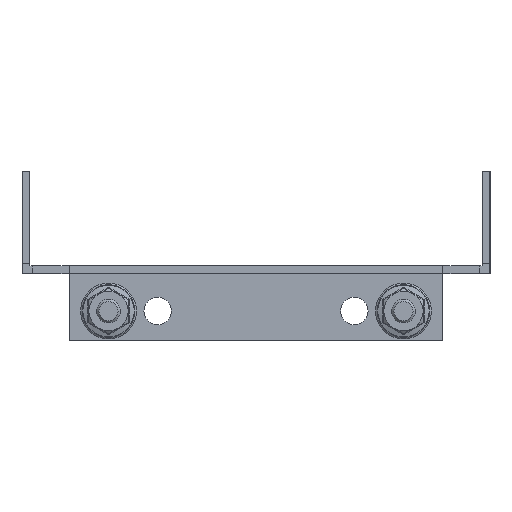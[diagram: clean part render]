
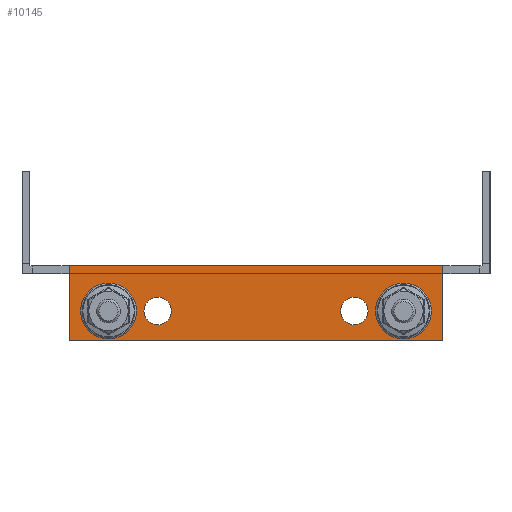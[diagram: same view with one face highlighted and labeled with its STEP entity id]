
A CAD part, left-side view. The second image highlights one B-rep face of the part: STEP entity #10145.
In plain terms, the highlighted planar face has unit normal (-1, 0, 0).
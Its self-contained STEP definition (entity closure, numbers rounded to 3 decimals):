
#1772 = VERTEX_POINT('',#1773);
#1773 = CARTESIAN_POINT('',(-250.,47.5,2.));
#1779 = EDGE_CURVE('',#1780,#1772,#1782,.T.);
#1780 = VERTEX_POINT('',#1781);
#1781 = CARTESIAN_POINT('',(-250.,-47.5,2.));
#1782 = LINE('',#1783,#1784);
#1783 = CARTESIAN_POINT('',(-250.,-57.5,2.));
#1784 = VECTOR('',#1785,1.);
#1785 = DIRECTION('',(-0.,1.,-0.));
#10024 = VERTEX_POINT('',#10025);
#10025 = CARTESIAN_POINT('',(-250.,-47.5,-0.6));
#10040 = EDGE_CURVE('',#10024,#1780,#10041,.T.);
#10041 = LINE('',#10042,#10043);
#10042 = CARTESIAN_POINT('',(-250.,-47.5,-0.6));
#10043 = VECTOR('',#10044,1.);
#10044 = DIRECTION('',(0.,-0.,1.));
#10064 = VERTEX_POINT('',#10065);
#10065 = CARTESIAN_POINT('',(-250.,47.5,-0.6));
#10071 = EDGE_CURVE('',#10064,#1772,#10072,.T.);
#10072 = LINE('',#10073,#10074);
#10073 = CARTESIAN_POINT('',(-250.,47.5,0.));
#10074 = VECTOR('',#10075,1.);
#10075 = DIRECTION('',(0.,0.,1.));
#10087 = EDGE_CURVE('',#10088,#10064,#10090,.T.);
#10088 = VERTEX_POINT('',#10089);
#10089 = CARTESIAN_POINT('',(-250.,47.5,-17.));
#10090 = LINE('',#10091,#10092);
#10091 = CARTESIAN_POINT('',(-250.,47.5,0.));
#10092 = VECTOR('',#10093,1.);
#10093 = DIRECTION('',(0.,-0.,1.));
#10127 = EDGE_CURVE('',#10024,#10128,#10130,.T.);
#10128 = VERTEX_POINT('',#10129);
#10129 = CARTESIAN_POINT('',(-250.,-47.5,-17.));
#10130 = LINE('',#10131,#10132);
#10131 = CARTESIAN_POINT('',(-250.,-47.5,-17.));
#10132 = VECTOR('',#10133,1.);
#10133 = DIRECTION('',(0.,-0.,-1.));
#10145 = ADVANCED_FACE('',(#10146,#10166,#10186,#10197,#10208),#10221,
  .T.);
#10146 = FACE_BOUND('',#10147,.T.);
#10147 = EDGE_LOOP('',(#10148,#10159));
#10148 = ORIENTED_EDGE('',*,*,#10149,.F.);
#10149 = EDGE_CURVE('',#10150,#10152,#10154,.T.);
#10150 = VERTEX_POINT('',#10151);
#10151 = CARTESIAN_POINT('',(-250.,-37.5,-13.));
#10152 = VERTEX_POINT('',#10153);
#10153 = CARTESIAN_POINT('',(-250.,-37.5,-6.));
#10154 = CIRCLE('',#10155,3.5);
#10155 = AXIS2_PLACEMENT_3D('',#10156,#10157,#10158);
#10156 = CARTESIAN_POINT('',(-250.,-37.5,-9.5));
#10157 = DIRECTION('',(-1.,0.,0.));
#10158 = DIRECTION('',(0.,0.,-1.));
#10159 = ORIENTED_EDGE('',*,*,#10160,.F.);
#10160 = EDGE_CURVE('',#10152,#10150,#10161,.T.);
#10161 = CIRCLE('',#10162,3.5);
#10162 = AXIS2_PLACEMENT_3D('',#10163,#10164,#10165);
#10163 = CARTESIAN_POINT('',(-250.,-37.5,-9.5));
#10164 = DIRECTION('',(-1.,0.,0.));
#10165 = DIRECTION('',(0.,0.,-1.));
#10166 = FACE_BOUND('',#10167,.T.);
#10167 = EDGE_LOOP('',(#10168,#10179));
#10168 = ORIENTED_EDGE('',*,*,#10169,.F.);
#10169 = EDGE_CURVE('',#10170,#10172,#10174,.T.);
#10170 = VERTEX_POINT('',#10171);
#10171 = CARTESIAN_POINT('',(-250.,-25.,-13.));
#10172 = VERTEX_POINT('',#10173);
#10173 = CARTESIAN_POINT('',(-250.,-25.,-6.));
#10174 = CIRCLE('',#10175,3.5);
#10175 = AXIS2_PLACEMENT_3D('',#10176,#10177,#10178);
#10176 = CARTESIAN_POINT('',(-250.,-25.,-9.5));
#10177 = DIRECTION('',(-1.,0.,0.));
#10178 = DIRECTION('',(0.,0.,-1.));
#10179 = ORIENTED_EDGE('',*,*,#10180,.F.);
#10180 = EDGE_CURVE('',#10172,#10170,#10181,.T.);
#10181 = CIRCLE('',#10182,3.5);
#10182 = AXIS2_PLACEMENT_3D('',#10183,#10184,#10185);
#10183 = CARTESIAN_POINT('',(-250.,-25.,-9.5));
#10184 = DIRECTION('',(-1.,0.,0.));
#10185 = DIRECTION('',(0.,0.,-1.));
#10186 = FACE_BOUND('',#10187,.T.);
#10187 = EDGE_LOOP('',(#10188));
#10188 = ORIENTED_EDGE('',*,*,#10189,.F.);
#10189 = EDGE_CURVE('',#10190,#10190,#10192,.T.);
#10190 = VERTEX_POINT('',#10191);
#10191 = CARTESIAN_POINT('',(-250.,25.,-6.));
#10192 = CIRCLE('',#10193,3.5);
#10193 = AXIS2_PLACEMENT_3D('',#10194,#10195,#10196);
#10194 = CARTESIAN_POINT('',(-250.,25.,-9.5));
#10195 = DIRECTION('',(-1.,0.,0.));
#10196 = DIRECTION('',(0.,0.,1.));
#10197 = FACE_BOUND('',#10198,.T.);
#10198 = EDGE_LOOP('',(#10199));
#10199 = ORIENTED_EDGE('',*,*,#10200,.F.);
#10200 = EDGE_CURVE('',#10201,#10201,#10203,.T.);
#10201 = VERTEX_POINT('',#10202);
#10202 = CARTESIAN_POINT('',(-250.,37.5,-6.));
#10203 = CIRCLE('',#10204,3.5);
#10204 = AXIS2_PLACEMENT_3D('',#10205,#10206,#10207);
#10205 = CARTESIAN_POINT('',(-250.,37.5,-9.5));
#10206 = DIRECTION('',(-1.,0.,0.));
#10207 = DIRECTION('',(0.,0.,1.));
#10208 = FACE_BOUND('',#10209,.T.);
#10209 = EDGE_LOOP('',(#10210,#10211,#10212,#10213,#10214,#10215));
#10210 = ORIENTED_EDGE('',*,*,#10127,.F.);
#10211 = ORIENTED_EDGE('',*,*,#10040,.T.);
#10212 = ORIENTED_EDGE('',*,*,#1779,.T.);
#10213 = ORIENTED_EDGE('',*,*,#10071,.F.);
#10214 = ORIENTED_EDGE('',*,*,#10087,.F.);
#10215 = ORIENTED_EDGE('',*,*,#10216,.F.);
#10216 = EDGE_CURVE('',#10128,#10088,#10217,.T.);
#10217 = LINE('',#10218,#10219);
#10218 = CARTESIAN_POINT('',(-250.,47.5,-17.));
#10219 = VECTOR('',#10220,1.);
#10220 = DIRECTION('',(-0.,1.,-0.));
#10221 = PLANE('',#10222);
#10222 = AXIS2_PLACEMENT_3D('',#10223,#10224,#10225);
#10223 = CARTESIAN_POINT('',(-250.,47.5,0.));
#10224 = DIRECTION('',(-1.,0.,0.));
#10225 = DIRECTION('',(0.,0.,1.));
